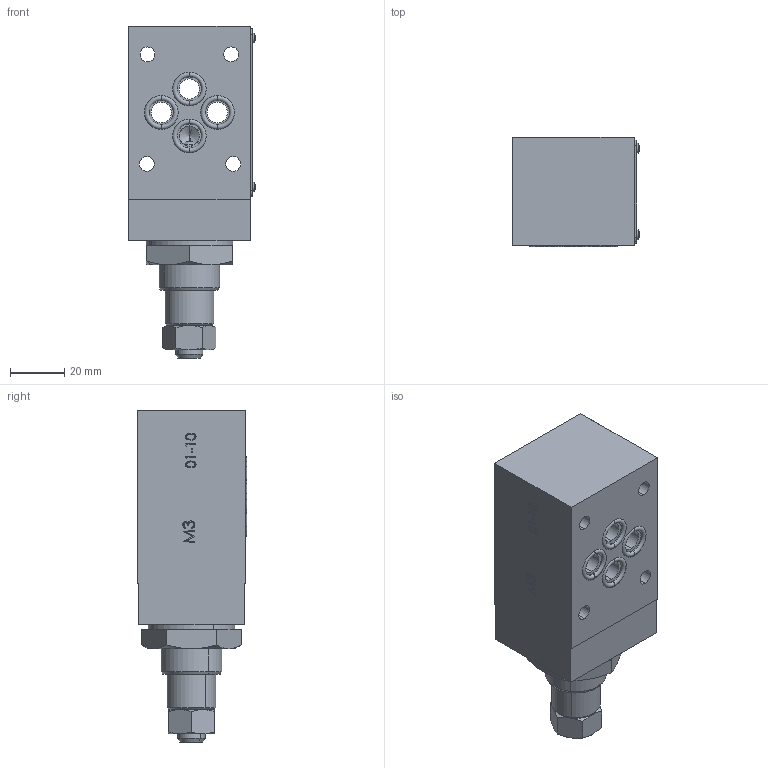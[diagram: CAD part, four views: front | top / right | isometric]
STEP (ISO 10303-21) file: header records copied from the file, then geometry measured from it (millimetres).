
FILE_DESCRIPTION (( 'STEP AP214' ), '1' );
FILE_NAME ('FT358-5-B-03-H.STEP', '2014-06-18T06:36:31', ( '' ), ( '' ), 'SwSTEP 2.0', 'SolidWorks 2014', '' );
FILE_SCHEMA (( 'AUTOMOTIVE_DESIGN' ));
Length unit declared in the file: millimetre
Products named in the file (17): OR132; AnelloFermoFT1251_2-01-12; 257-6-009000-38; 267-5-002001-38; 267-5-008001-38; 358-5-AB017000; 267-5-018000-38; OR2018; BK2018; 357-5-AB101000; RivettoTarga; 358-5-B015000-H; 357-5-B001000-H; FT358-5-B-03-H; 358-5AB012000; OR2037; OR2068
Assembly tree (22 placements, depth 2):
  FT358-5-B-03-H
    357-5-B001000-H
    358-5-B015000-H
    RivettoTarga  x4
    357-5-AB101000
    BK2018
    OR2018
    267-5-018000-38
    358-5-AB017000
    267-5-008001-38
    267-5-002001-38
    257-6-009000-38
    AnelloFermoFT1251_2-01-12
    OR132
    OR2068
    OR2037  x4
    358-5AB012000
Bounding box: 46.96 x 40.38 x 122.8 mm (x, y, z)
Volume: 147721.5 mm3; surface area: 49782.9 mm2
Topology: 22 solids, 22 shells, 1799 faces, 4544 edges, 2948 vertices
Faces by surface type: plane 973, bspline 393, cylinder 255, cone 138, torus 40
Entity records: 90770 total; most frequent: CARTESIAN_POINT 36731, ORIENTED_EDGE 8868, DIRECTION 6828, EDGE_CURVE 4434, VECTOR 2970, LINE 2970, VERTEX_POINT 2894, EDGE_LOOP 1980
